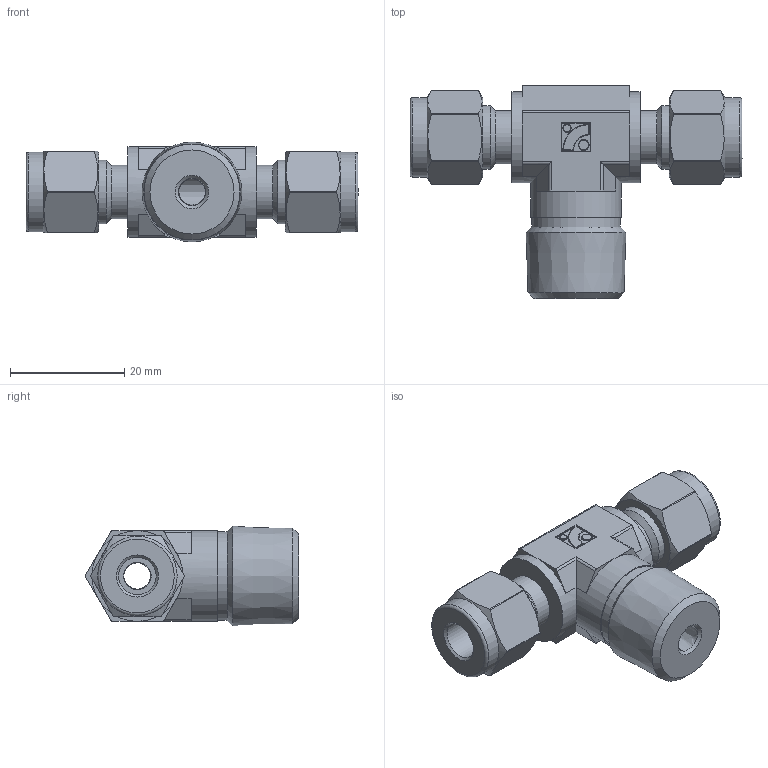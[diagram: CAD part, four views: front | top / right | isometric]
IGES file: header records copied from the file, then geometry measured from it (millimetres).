
Global section: file name: No Iges File Name specified; native system: Autodesk Inventor 2012; preprocessor: AutoDesk Inventor Iges Exporter R2012; author: 硅己绕,, ; organization: 11; date: 20150815.155142; units: millimetre
Bounding box: 58.09 x 37.29 x 17.45 mm (x, y, z)
Volume: 12449.3 mm3; surface area: 6035 mm2
Topology: 1 solids, 1 shells, 133 faces, 308 edges, 188 vertices
Faces by surface type: plane 58, cylinder 42, revolution 18, cone 9, torus 6
Full cylindrical faces by diameter (mm): 1.35 x1, 1.8 x1, 9.3 x2, 11.112 x2, 13.9 x2, 15.496 x1, 15.88 x3
